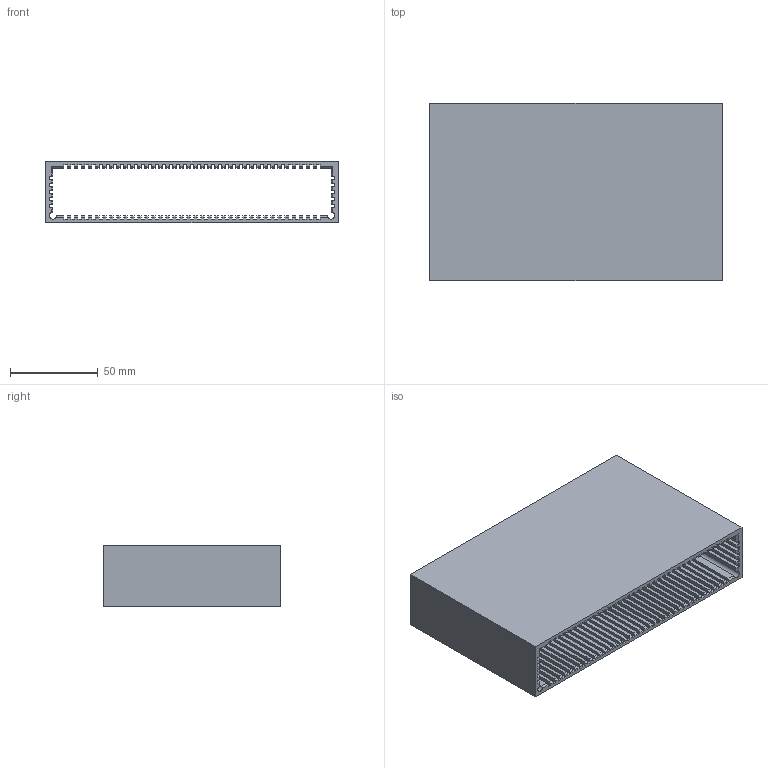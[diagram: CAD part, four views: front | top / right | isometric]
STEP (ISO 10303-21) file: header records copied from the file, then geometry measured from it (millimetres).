
FILE_DESCRIPTION(/* description */ (''),/* implementation_level */ '2;1');
FILE_NAME(/* name */ 'GS108E Slot v11.step',/* time_stamp */ '2024-02-11T13:11:23+01:00',/* author */ (''),/* organization */ (''),/* preprocessor_version */ 'ST-DEVELOPER v20',/* originating_system */ 'Autodesk Translation Framework v12.14.0.127',/* authorisation */ '');
FILE_SCHEMA (('AUTOMOTIVE_DESIGN { 1 0 10303 214 3 1 1 }'));
Length unit declared in the file: millimetre
Products named in the file (1): GS108E Slot
Bounding box: 166.6 x 101 x 35 mm (x, y, z)
Volume: 119400.2 mm3; surface area: 115056.1 mm2
Topology: 1 solids, 1 shells, 516 faces, 1534 edges, 1022 vertices
Faces by surface type: plane 512, cylinder 4
Full cylindrical faces by diameter (mm): 3 x2
Entity records: 16973 total; most frequent: CARTESIAN_POINT 3073, ORIENTED_EDGE 3068, DIRECTION 2582, EDGE_CURVE 1534, LINE 1520, VECTOR 1520, VERTEX_POINT 1022, AXIS2_PLACEMENT_3D 531
